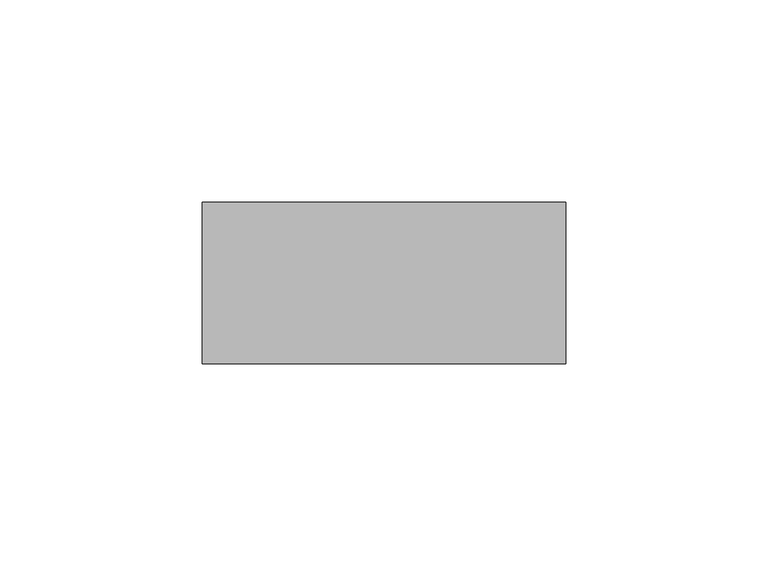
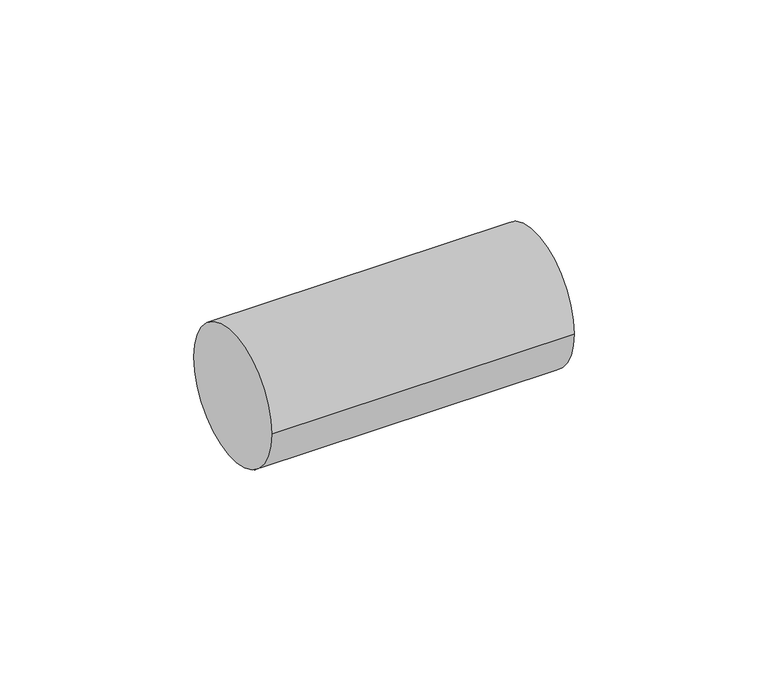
"""IFC4 building model written with IfcOpenShell, lengths in millimetres: valve geometry, EVRA_Термоголовка EVRA MТB140 : EVRA MТB140."""

from ifc_helpers import new_model, si_unit, point, frame, origin, origin_2d, place, context, project, spatial, circle_curve, trimmed, segment, composite_curve, outline, extrude, source, transform, mapped, element, save


def valve_c0d130b6(model_context):
    return source(origin(), model_context, "Body", "SweptSolid", [
        extrude(outline(composite_curve([segment(trimmed(circle_curve(origin_2d(), 20.0), [point((-20.0, 0.0))], [point((20.0, 0.0))], False, "CARTESIAN"), True, "CONTINUOUS"), segment(trimmed(circle_curve(origin_2d(), 20.0), [point((20.0, 0.0))], [point((-20.0, 0.0))], False, "CARTESIAN"), True, "CONTINUOUS")], self_intersect=False)), frame((-490.0, 0.0, 0.0), z_axis=(1.0, 0.0, 0.0), x_axis=(0.0, 1.0, 0.0)), (0.0, 0.0, 1.0), 90.0),
    ])


if __name__ == "__main__":
    model = new_model("IFC4")
    model_context = context("Model", 3, world=origin())
    ifc_project = project(units=[si_unit("LENGTHUNIT", "METRE", prefix="MILLI")], contexts=[model_context])
    site = spatial("IfcSite", under=ifc_project)
    building = spatial("IfcBuilding", under=site)
    placement = place(None, origin())
    valve_shape = valve_c0d130b6(model_context)
    element("IfcValve", 1, ObjectType="EVRA_Термоголовка EVRA MТB140 : EVRA MТB140", at=placement, inside=building, context=model_context, shape_type="MappedRepresentation", body=[
        mapped(valve_shape, transform((0.0, 0.0, 0.0), x_axis=(1.0, 0.0, 0.0), y_axis=(0.0, 1.0, 0.0), z_axis=(0.0, 0.0, 1.0))),
    ])
    save(model, "model.ifc")
